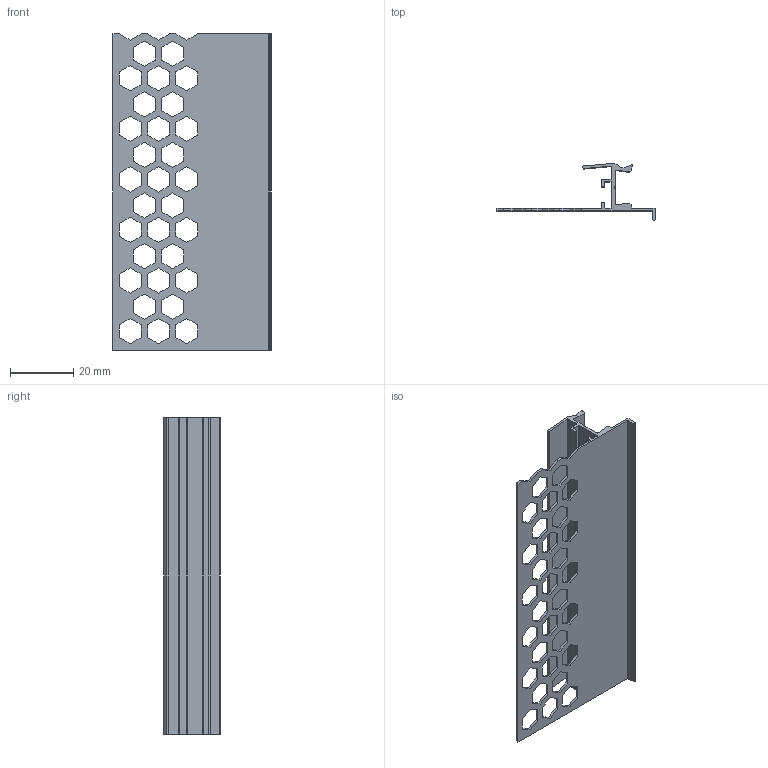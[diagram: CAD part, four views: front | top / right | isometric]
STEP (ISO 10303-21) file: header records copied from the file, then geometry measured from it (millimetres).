
FILE_DESCRIPTION(/* description */ (''),/* implementation_level */ '2;1');
FILE_NAME(/* name */ 'W:\R&D\pub\Katalog techniczny\Bryły PIM\STP\Nowe Glax-y\PA-GLAXGKS3M-00.stp',/* time_stamp */ '2019-10-10T10:10:58+02:00',/* author */ ('tomaszw'),/* organization */ (''),/* preprocessor_version */ 'ST-DEVELOPER v17.2',/* originating_system */ 'Autodesk Inventor 2019',/* authorisation */ '');
FILE_SCHEMA (('AUTOMOTIVE_DESIGN { 1 0 10303 214 3 1 1 }'));
Length unit declared in the file: millimetre
Products named in the file (2): Złożenie_sufit_1; GTV-221 -05
Assembly tree (1 placements, depth 2):
  Złożenie_sufit_1
    GTV-221 -05
Bounding box: 50 x 17.96 x 100 mm (x, y, z)
Volume: 7373.8 mm3; surface area: 15928.6 mm2
Topology: 1 solids, 1 shells, 249 faces, 741 edges, 494 vertices
Faces by surface type: plane 226, cylinder 23
Entity records: 8657 total; most frequent: CARTESIAN_POINT 1487, ORIENTED_EDGE 1482, DIRECTION 1291, EDGE_CURVE 741, LINE 695, VECTOR 695, VERTEX_POINT 494, EDGE_LOOP 309
